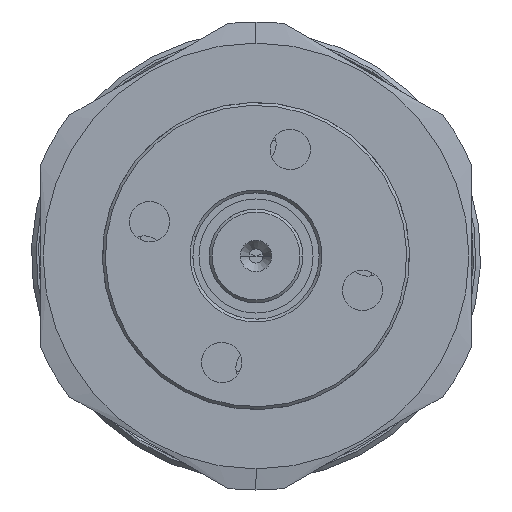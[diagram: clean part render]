
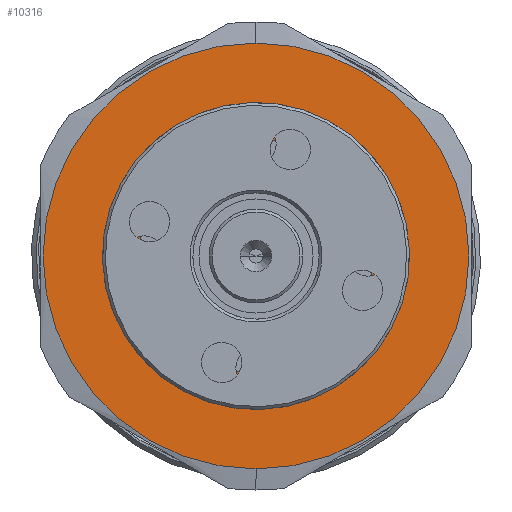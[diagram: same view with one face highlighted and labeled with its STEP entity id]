
A CAD part, front view. The second image highlights one B-rep face of the part: STEP entity #10316.
In plain terms, the highlighted planar face has unit normal (0, -1, 0).
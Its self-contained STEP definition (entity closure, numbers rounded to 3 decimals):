
#238 = EDGE_CURVE ( 'NONE', #2627, #11747, #9175, .T. ) ;
#267 = DIRECTION ( 'NONE',  ( 0., -1., 0. ) ) ;
#572 = DIRECTION ( 'NONE',  ( 0., 1., 0. ) ) ;
#618 = CIRCLE ( 'NONE', #7146, 12.5 ) ;
#907 = VERTEX_POINT ( 'NONE', #7679 ) ;
#1054 = CARTESIAN_POINT ( 'NONE',  ( 0., 28., 0. ) ) ;
#1096 = AXIS2_PLACEMENT_3D ( 'NONE', #6165, #7260, #10754 ) ;
#1233 = DIRECTION ( 'NONE',  ( 0., 0., -1. ) ) ;
#1337 = AXIS2_PLACEMENT_3D ( 'NONE', #1054, #267, #8325 ) ;
#1408 = EDGE_CURVE ( 'NONE', #907, #3513, #8635, .T. ) ;
#1864 = CARTESIAN_POINT ( 'NONE',  ( 0., 28., 22.75 ) ) ;
#2627 = VERTEX_POINT ( 'NONE', #5808 ) ;
#3513 = VERTEX_POINT ( 'NONE', #6966 ) ;
#3630 = ORIENTED_EDGE ( 'NONE', *, *, #238, .F. ) ;
#3712 = ORIENTED_EDGE ( 'NONE', *, *, #10913, .F. ) ;
#4338 = EDGE_CURVE ( 'NONE', #3513, #907, #618, .T. ) ;
#5309 = DIRECTION ( 'NONE',  ( 0., 0., 1. ) ) ;
#5532 = AXIS2_PLACEMENT_3D ( 'NONE', #6617, #5606, #10226 ) ;
#5606 = DIRECTION ( 'NONE',  ( 0., 1., 0. ) ) ;
#5808 = CARTESIAN_POINT ( 'NONE',  ( 0., 28., -22.75 ) ) ;
#6165 = CARTESIAN_POINT ( 'NONE',  ( -25., 28., 0. ) ) ;
#6200 = CARTESIAN_POINT ( 'NONE',  ( 0., 28., 0. ) ) ;
#6617 = CARTESIAN_POINT ( 'NONE',  ( 0., 28., 0. ) ) ;
#6966 = CARTESIAN_POINT ( 'NONE',  ( 0., 28., 12.5 ) ) ;
#7146 = AXIS2_PLACEMENT_3D ( 'NONE', #8448, #9333, #1233 ) ;
#7247 = EDGE_LOOP ( 'NONE', ( #3712, #3630 ) ) ;
#7260 = DIRECTION ( 'NONE',  ( 0., 1., 0. ) ) ;
#7448 = EDGE_LOOP ( 'NONE', ( #10813, #9080 ) ) ;
#7679 = CARTESIAN_POINT ( 'NONE',  ( 0., 28., -12.5 ) ) ;
#8106 = FACE_OUTER_BOUND ( 'NONE', #7247, .T. ) ;
#8325 = DIRECTION ( 'NONE',  ( 0., 0., -1. ) ) ;
#8409 = CIRCLE ( 'NONE', #5532, 22.75 ) ;
#8448 = CARTESIAN_POINT ( 'NONE',  ( 0., 28., 0. ) ) ;
#8635 = CIRCLE ( 'NONE', #1337, 12.5 ) ;
#8800 = AXIS2_PLACEMENT_3D ( 'NONE', #6200, #572, #5309 ) ;
#9080 = ORIENTED_EDGE ( 'NONE', *, *, #4338, .F. ) ;
#9175 = CIRCLE ( 'NONE', #8800, 22.75 ) ;
#9333 = DIRECTION ( 'NONE',  ( 0., -1., 0. ) ) ;
#10015 = FACE_BOUND ( 'NONE', #7448, .T. ) ;
#10226 = DIRECTION ( 'NONE',  ( 0., 0., 1. ) ) ;
#10316 = ADVANCED_FACE ( 'NONE', ( #10015, #8106 ), #11655, .F. ) ;
#10754 = DIRECTION ( 'NONE',  ( 0., 0., 1. ) ) ;
#10813 = ORIENTED_EDGE ( 'NONE', *, *, #1408, .F. ) ;
#10913 = EDGE_CURVE ( 'NONE', #11747, #2627, #8409, .T. ) ;
#11655 = PLANE ( 'NONE',  #1096 ) ;
#11747 = VERTEX_POINT ( 'NONE', #1864 ) ;
